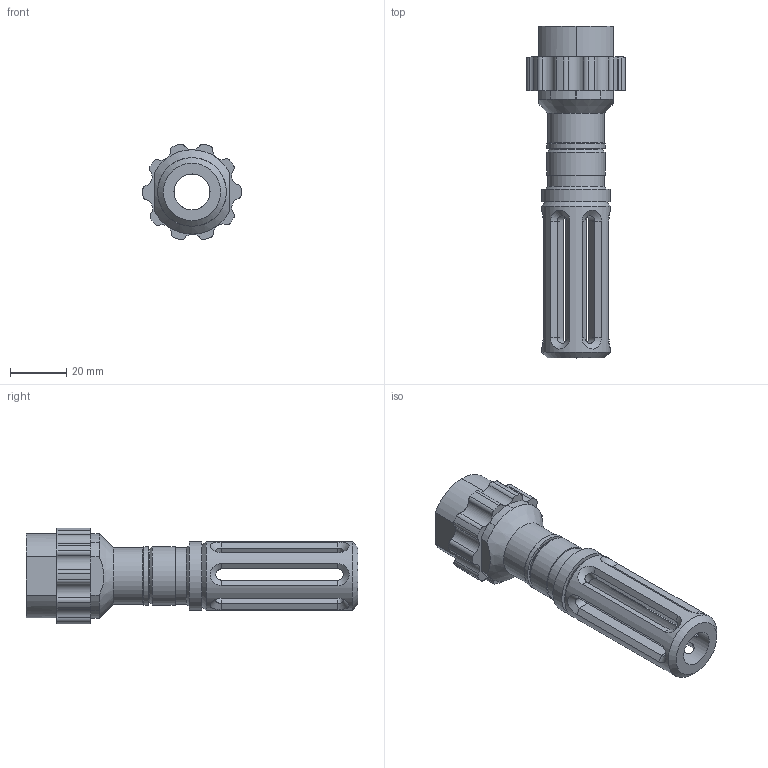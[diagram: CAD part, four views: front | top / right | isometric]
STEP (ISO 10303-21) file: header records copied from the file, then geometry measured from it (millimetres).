
FILE_DESCRIPTION(('HOOPS Exchange Step'),'2;1');
FILE_NAME('/private/var/mobile/Containers/Data/Application/9F88D646-2CEA-4423-B748-2C55ED46232A/tmp/export/temp_export','2026-08-08T21:37:18+19:00',('mobile'),('Shapr3D Limited'),'HOOPS Exchange 2026.3','Shapr3D','Authorized');
FILE_SCHEMA( ('AP242_MANAGED_MODEL_BASED_3D_ENGINEERING_MIM_LF {1 0 10303 442 1 1 4}') );
Length unit declared in the file: millimetre
Products named in the file (3): 95462A540_Zinc-Plated Medium-Strength Steel Hex Nut.STEP; Muzzle Brake 2.step; root
Assembly tree (2 placements, depth 3):
  root
    Muzzle Brake 2.step
      95462A540_Zinc-Plated Medium-Strength Steel Hex Nut.STEP
Bounding box: 35 x 118 x 34.07 mm (x, y, z)
Volume: 32857.7 mm3; surface area: 17327.7 mm2
Topology: 1 solids, 1 shells, 161 faces, 430 edges, 277 vertices
Faces by surface type: cylinder 66, plane 48, extrusion 21, bspline 18, cone 6, torus 2
Full cylindrical faces by diameter (mm): 12.806 x1, 18.868 x1, 20 x3, 20.8 x2, 24.413 x2
Entity records: 63271 total; most frequent: CARTESIAN_POINT 59340, ORIENTED_EDGE 860, DIRECTION 740, EDGE_CURVE 430, VERTEX_POINT 277, AXIS2_PLACEMENT_3D 269, VECTOR 202, EDGE_LOOP 181
